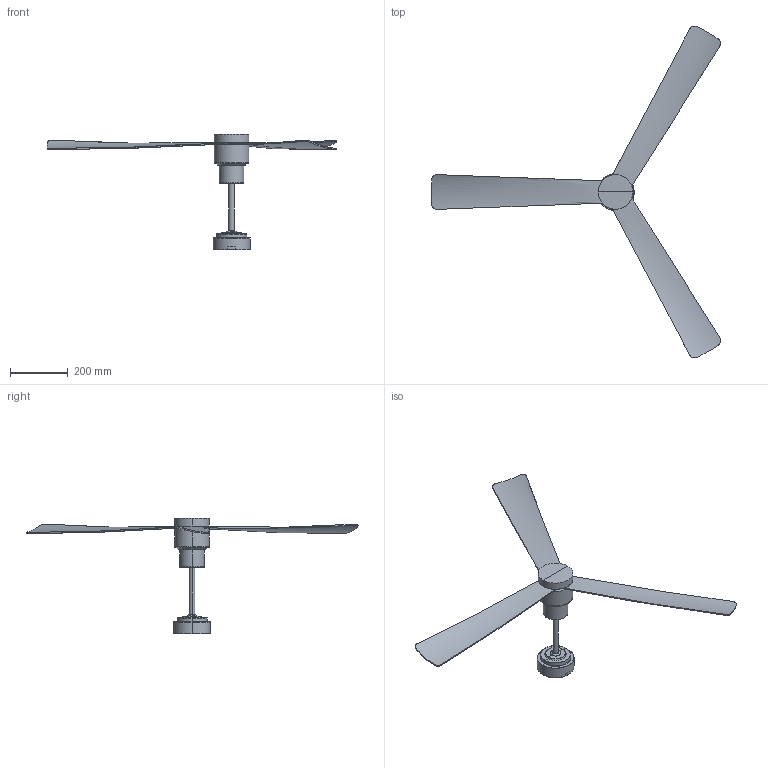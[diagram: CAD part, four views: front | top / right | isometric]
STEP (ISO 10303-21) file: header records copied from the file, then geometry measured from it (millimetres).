
FILE_DESCRIPTION(/* description */ (''),/* implementation_level */ '2;1');
FILE_NAME(/* name */ 'C:\Users\Franco Sartori E\Documents\FARO\DUPLICADO\Modelos\01_Digitalizados\PRIORIZACION 2D\3_NASSAU\03_Publicación\33487WP - Vista 3D - {3D}.stp',/* time_stamp */ '2021-01-26T11:11:02+01:00',/* author */ ('Franco Sartori E'),/* organization */ (''),/* preprocessor_version */ 'ST-DEVELOPER v18.1',/* originating_system */ 'AutoCAD Mechanical',/* authorisation */ '');
FILE_SCHEMA (('AUTOMOTIVE_DESIGN { 1 0 10303 214 3 1 1 }'));
Length unit declared in the file: millimetre
Products named in the file (2): Product; 33487_ 33487WP_ 33478_ 33478WP - Lamp-476900-_3D_
Assembly tree (1 placements, depth 2):
  Product
    33487_ 33487WP_ 33478_ 33478WP - Lamp-476900-_3D_
Bounding box: 1004.61 x 1153.12 x 400 mm (x, y, z)
Volume: 2310782.7 mm3; surface area: 571961.9 mm2
Topology: 6 solids, 6 shells, 168 faces, 447 edges, 287 vertices
Faces by surface type: plane 77, cylinder 55, torus 22, bspline 10, cone 4
Entity records: 17690 total; most frequent: CARTESIAN_POINT 13833, ORIENTED_EDGE 894, DIRECTION 637, EDGE_CURVE 447, VERTEX_POINT 287, AXIS2_PLACEMENT_3D 228, B_SPLINE_CURVE_WITH_KNOTS 195, LINE 181
